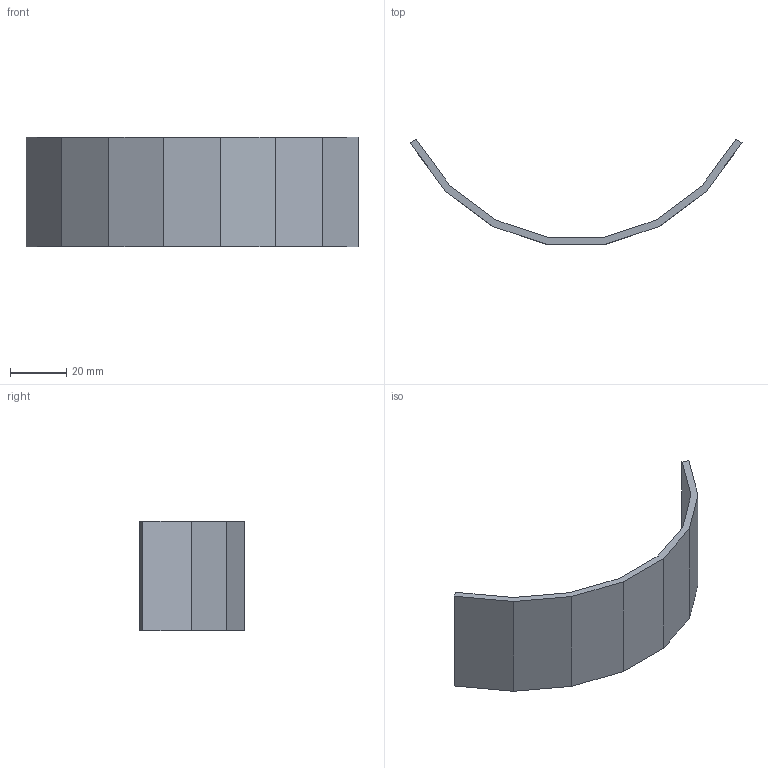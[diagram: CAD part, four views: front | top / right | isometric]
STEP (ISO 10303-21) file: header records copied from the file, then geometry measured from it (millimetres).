
FILE_DESCRIPTION(('Open CASCADE Model'),'2;1');
FILE_NAME('Open CASCADE Shape Model','2026-09-19T23:46:40',('Author'),( 'Open CASCADE'),'Open CASCADE STEP processor 7.9','Open CASCADE 7.9' ,'Unknown');
FILE_SCHEMA(('AUTOMOTIVE_DESIGN { 1 0 10303 214 1 1 1 1 }'));
Length unit declared in the file: millimetre
Products named in the file (1): Open CASCADE STEP translator 7.9 47
Bounding box: 117.78 x 37.42 x 39 mm (x, y, z)
Volume: 13778.3 mm3; surface area: 12055.2 mm2
Topology: 1 solids, 1 shells, 18 faces, 48 edges, 32 vertices
Faces by surface type: plane 18
Entity records: 1138 total; most frequent: CARTESIAN_POINT 243, DIRECTION 134, ORIENTED_EDGE 96, LINE 96, VECTOR 96, PCURVE 96, DEFINITIONAL_REPRESENTATION 96, EDGE_CURVE 48
